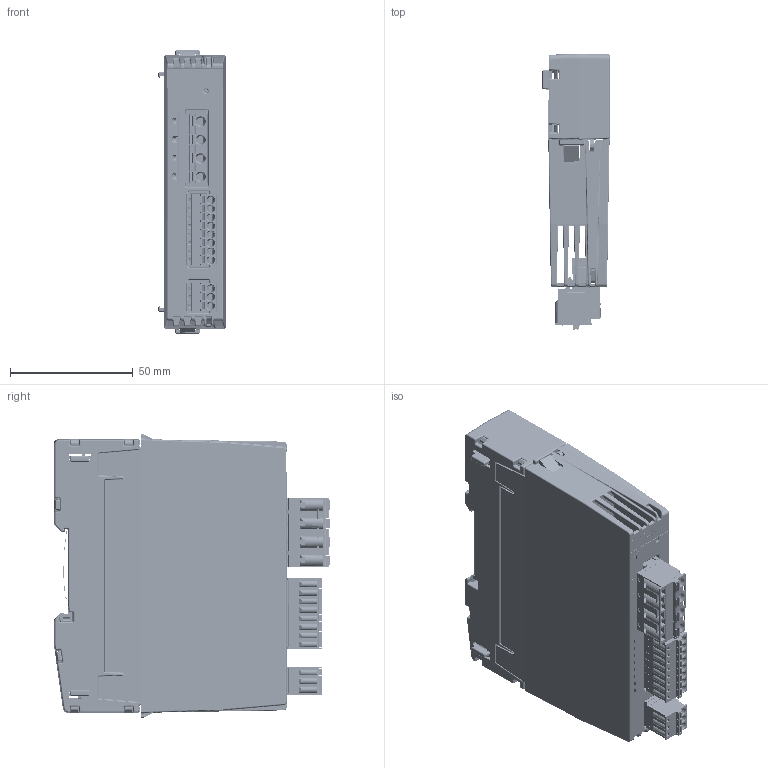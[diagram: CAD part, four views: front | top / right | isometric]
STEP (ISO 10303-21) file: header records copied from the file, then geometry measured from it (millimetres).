
FILE_DESCRIPTION(/* description */ (''),/* implementation_level */ '2;1');
FILE_NAME(/* name */ 'C:\Users\Public\Documents\Autodesk\Inventor 2023\PML3A_Simplified+BackBB21A.stp',/* time_stamp */ '2024-10-18T22:42:55+02:00',/* author */ ('shoma'),/* organization */ (''),/* preprocessor_version */ 'ST-DEVELOPER v19',/* originating_system */ 'Autodesk Inventor 2023',/* authorisation */ '');
FILE_SCHEMA (('AUTOMOTIVE_DESIGN { 1 0 10303 214 3 1 1 }'));
Products named in the file (1): PML3A_Simplified+BackBB21A
Bounding box: 27.4 x 112.6 x 115.5 mm (x, y, z)
Volume: 135794.3 mm3; surface area: 89496.9 mm2
Topology: 7 solids, 42 shells, 8450 faces, 22690 edges, 14283 vertices
Faces by surface type: plane 5481, cylinder 2072, bspline 549, sphere 163, cone 139, torus 46
Full cylindrical faces by diameter (mm): 0.296 x2, 0.3 x36, 0.434 x1, 0.457 x2, 0.7 x36, 0.8 x6, 0.85 x24, 0.9 x8, 1.17 x11, 1.25 x11, 1.3 x11, 1.4 x8, 1.5 x4, 1.6 x9, 2.35 x2, 2.5 x1, 2.8 x3, 3 x5, 3.1 x11, 3.25 x2, 4 x4
Entity records: 286662 total; most frequent: CARTESIAN_POINT 66513, ORIENTED_EDGE 45034, DIRECTION 42704, EDGE_CURVE 22517, LINE 16502, VECTOR 16502, VERTEX_POINT 14279, AXIS2_PLACEMENT_3D 13101
